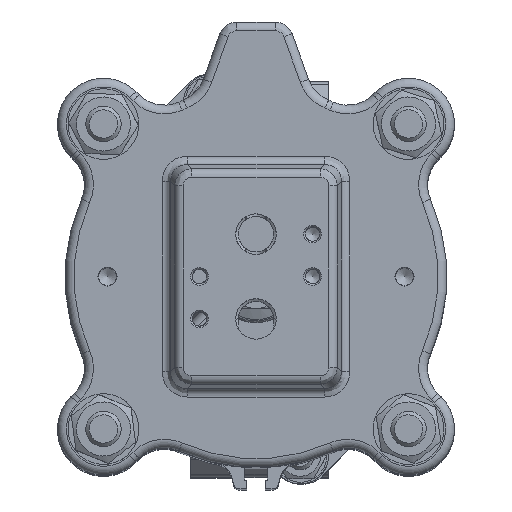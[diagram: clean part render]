
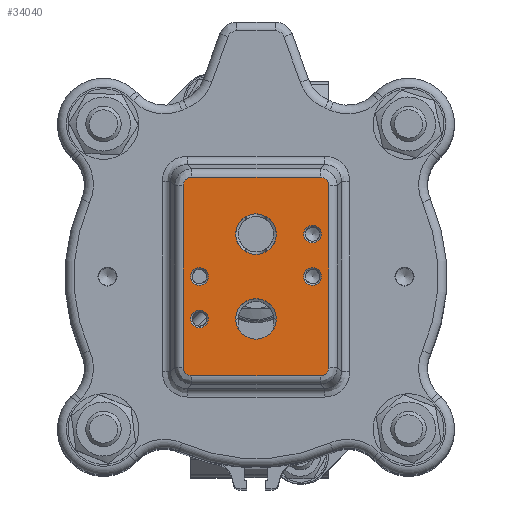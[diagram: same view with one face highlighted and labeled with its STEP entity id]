
A CAD part, top view. The second image highlights one B-rep face of the part: STEP entity #34040.
In plain terms, the highlighted planar face has unit normal (0, 0, 1).
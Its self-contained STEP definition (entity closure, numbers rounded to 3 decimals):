
#506=ELLIPSE('',#37305,2.673,2.5);
#507=ELLIPSE('',#37306,2.673,2.5);
#508=ELLIPSE('',#37307,2.673,2.5);
#509=ELLIPSE('',#37308,2.673,2.5);
#1019=FACE_BOUND('',#6562,.T.);
#1020=FACE_BOUND('',#6563,.T.);
#1021=FACE_BOUND('',#6564,.T.);
#1022=FACE_BOUND('',#6565,.T.);
#1023=FACE_BOUND('',#6566,.T.);
#1024=FACE_BOUND('',#6567,.T.);
#1802=PLANE('',#37304);
#4368=FACE_OUTER_BOUND('',#6561,.T.);
#6561=EDGE_LOOP('',(#27449,#27450,#27451,#27452,#27453,#27454,#27455,#27456));
#6562=EDGE_LOOP('',(#27457,#27458));
#6563=EDGE_LOOP('',(#27459,#27460));
#6564=EDGE_LOOP('',(#27461));
#6565=EDGE_LOOP('',(#27462));
#6566=EDGE_LOOP('',(#27463));
#6567=EDGE_LOOP('',(#27464));
#8834=CIRCLE('',#37174,5.723);
#8835=CIRCLE('',#37175,5.723);
#8837=CIRCLE('',#37178,5.723);
#8838=CIRCLE('',#37179,5.723);
#8929=CIRCLE('',#37303,2.5);
#8930=CIRCLE('',#37309,2.5);
#8931=CIRCLE('',#37310,2.5);
#8932=CIRCLE('',#37311,2.5);
#11150=LINE('',#59920,#13055);
#11151=LINE('',#59924,#13056);
#11152=LINE('',#59928,#13057);
#11153=LINE('',#59931,#13058);
#13055=VECTOR('',#44816,10.);
#13056=VECTOR('',#44819,10.);
#13057=VECTOR('',#44822,10.);
#13058=VECTOR('',#44825,10.);
#15661=VERTEX_POINT('',#59225);
#15662=VERTEX_POINT('',#59227);
#15663=VERTEX_POINT('',#59232);
#15664=VERTEX_POINT('',#59234);
#15765=VERTEX_POINT('',#59912);
#15766=VERTEX_POINT('',#59916);
#15767=VERTEX_POINT('',#59917);
#15768=VERTEX_POINT('',#59919);
#15769=VERTEX_POINT('',#59921);
#15770=VERTEX_POINT('',#59923);
#15771=VERTEX_POINT('',#59925);
#15772=VERTEX_POINT('',#59927);
#15773=VERTEX_POINT('',#59929);
#15774=VERTEX_POINT('',#59932);
#15775=VERTEX_POINT('',#59934);
#15776=VERTEX_POINT('',#59936);
#19775=EDGE_CURVE('',#15662,#15661,#8834,.T.);
#19776=EDGE_CURVE('',#15661,#15662,#8835,.T.);
#19779=EDGE_CURVE('',#15664,#15663,#8837,.T.);
#19780=EDGE_CURVE('',#15663,#15664,#8838,.T.);
#19916=EDGE_CURVE('',#15765,#15765,#8929,.T.);
#19917=EDGE_CURVE('',#15766,#15767,#506,.T.);
#19918=EDGE_CURVE('',#15768,#15766,#11150,.T.);
#19919=EDGE_CURVE('',#15769,#15768,#507,.T.);
#19920=EDGE_CURVE('',#15770,#15769,#11151,.T.);
#19921=EDGE_CURVE('',#15771,#15770,#508,.T.);
#19922=EDGE_CURVE('',#15772,#15771,#11152,.T.);
#19923=EDGE_CURVE('',#15773,#15772,#509,.T.);
#19924=EDGE_CURVE('',#15767,#15773,#11153,.T.);
#19925=EDGE_CURVE('',#15774,#15774,#8930,.T.);
#19926=EDGE_CURVE('',#15775,#15775,#8931,.T.);
#19927=EDGE_CURVE('',#15776,#15776,#8932,.T.);
#27449=ORIENTED_EDGE('',*,*,#19917,.F.);
#27450=ORIENTED_EDGE('',*,*,#19918,.F.);
#27451=ORIENTED_EDGE('',*,*,#19919,.F.);
#27452=ORIENTED_EDGE('',*,*,#19920,.F.);
#27453=ORIENTED_EDGE('',*,*,#19921,.F.);
#27454=ORIENTED_EDGE('',*,*,#19922,.F.);
#27455=ORIENTED_EDGE('',*,*,#19923,.F.);
#27456=ORIENTED_EDGE('',*,*,#19924,.F.);
#27457=ORIENTED_EDGE('',*,*,#19775,.T.);
#27458=ORIENTED_EDGE('',*,*,#19776,.T.);
#27459=ORIENTED_EDGE('',*,*,#19779,.T.);
#27460=ORIENTED_EDGE('',*,*,#19780,.T.);
#27461=ORIENTED_EDGE('',*,*,#19925,.F.);
#27462=ORIENTED_EDGE('',*,*,#19926,.F.);
#27463=ORIENTED_EDGE('',*,*,#19927,.F.);
#27464=ORIENTED_EDGE('',*,*,#19916,.F.);
#34040=ADVANCED_FACE('',(#4368,#1019,#1020,#1021,#1022,#1023,#1024),#1802,
 .F.);
#37174=AXIS2_PLACEMENT_3D('',#59228,#44524,#44525);
#37175=AXIS2_PLACEMENT_3D('',#59229,#44526,#44527);
#37178=AXIS2_PLACEMENT_3D('',#59235,#44533,#44534);
#37179=AXIS2_PLACEMENT_3D('',#59236,#44535,#44536);
#37303=AXIS2_PLACEMENT_3D('',#59914,#44810,#44811);
#37304=AXIS2_PLACEMENT_3D('',#59915,#44812,#44813);
#37305=AXIS2_PLACEMENT_3D('',#59918,#44814,#44815);
#37306=AXIS2_PLACEMENT_3D('',#59922,#44817,#44818);
#37307=AXIS2_PLACEMENT_3D('',#59926,#44820,#44821);
#37308=AXIS2_PLACEMENT_3D('',#59930,#44823,#44824);
#37309=AXIS2_PLACEMENT_3D('',#59933,#44826,#44827);
#37310=AXIS2_PLACEMENT_3D('',#59935,#44828,#44829);
#37311=AXIS2_PLACEMENT_3D('',#59937,#44830,#44831);
#44524=DIRECTION('center_axis',(0.,0.,
-1.));
#44525=DIRECTION('ref_axis',(0.,1.,0.));
#44526=DIRECTION('center_axis',(0.,0.,
-1.));
#44527=DIRECTION('ref_axis',(0.,1.,0.));
#44533=DIRECTION('center_axis',(0.,0.,
-1.));
#44534=DIRECTION('ref_axis',(0.,1.,0.));
#44535=DIRECTION('center_axis',(0.,0.,
-1.));
#44536=DIRECTION('ref_axis',(0.,1.,0.));
#44810=DIRECTION('center_axis',(0.,0.,
1.));
#44811=DIRECTION('ref_axis',(0.,-1.,0.));
#44812=DIRECTION('center_axis',(0.,0.,
-1.));
#44813=DIRECTION('ref_axis',(0.,-1.,0.));
#44814=DIRECTION('center_axis',(0.,0.,
-1.));
#44815=DIRECTION('ref_axis',(0.707,-0.707,0.));
#44816=DIRECTION('',(0.,-1.,0.));
#44817=DIRECTION('center_axis',(0.,0.,
-1.));
#44818=DIRECTION('ref_axis',(0.707,0.707,0.));
#44819=DIRECTION('',(1.,0.,0.));
#44820=DIRECTION('center_axis',(0.,0.,
-1.));
#44821=DIRECTION('ref_axis',(-0.707,0.707,0.));
#44822=DIRECTION('',(0.,1.,0.));
#44823=DIRECTION('center_axis',(0.,0.,
-1.));
#44824=DIRECTION('ref_axis',(-0.707,-0.707,0.));
#44825=DIRECTION('',(-1.,0.,0.));
#44826=DIRECTION('center_axis',(0.,0.,
1.));
#44827=DIRECTION('ref_axis',(0.,-1.,0.));
#44828=DIRECTION('center_axis',(0.,0.,
1.));
#44829=DIRECTION('ref_axis',(0.,-1.,0.));
#44830=DIRECTION('center_axis',(0.,0.,
1.));
#44831=DIRECTION('ref_axis',(0.,-1.,0.));
#59225=CARTESIAN_POINT('',(0.,-17.723,523.5));
#59227=CARTESIAN_POINT('',(0.,-6.278,523.5));
#59228=CARTESIAN_POINT('Origin',(0.,-12.,
523.5));
#59229=CARTESIAN_POINT('Origin',(0.,-12.,
523.5));
#59232=CARTESIAN_POINT('',(0.,6.277,523.5));
#59234=CARTESIAN_POINT('',(0.,17.722,523.5));
#59235=CARTESIAN_POINT('Origin',(0.,12.,
523.5));
#59236=CARTESIAN_POINT('Origin',(0.,12.,
523.5));
#59912=CARTESIAN_POINT('',(-16.,-9.5,523.5));
#59914=CARTESIAN_POINT('Origin',(-16.,-12.,523.5));
#59915=CARTESIAN_POINT('Origin',(0.,0.,
523.5));
#59916=CARTESIAN_POINT('',(20.582,-25.667,523.5));
#59917=CARTESIAN_POINT('',(18.167,-28.082,523.5));
#59918=CARTESIAN_POINT('Origin',(17.993,-25.493,523.5));
#59919=CARTESIAN_POINT('',(20.582,25.667,523.5));
#59920=CARTESIAN_POINT('',(20.582,-15.,523.5));
#59921=CARTESIAN_POINT('',(18.167,28.082,523.5));
#59922=CARTESIAN_POINT('Origin',(17.993,25.493,523.5));
#59923=CARTESIAN_POINT('',(-18.167,28.082,523.5));
#59924=CARTESIAN_POINT('',(11.25,28.082,523.5));
#59925=CARTESIAN_POINT('',(-20.582,25.667,523.5));
#59926=CARTESIAN_POINT('Origin',(-17.993,25.493,523.5));
#59927=CARTESIAN_POINT('',(-20.582,-25.667,523.5));
#59928=CARTESIAN_POINT('',(-20.582,15.,523.5));
#59929=CARTESIAN_POINT('',(-18.167,-28.082,523.5));
#59930=CARTESIAN_POINT('Origin',(-17.993,-25.493,523.5));
#59931=CARTESIAN_POINT('',(-11.25,-28.082,523.5));
#59932=CARTESIAN_POINT('',(-16.,2.5,523.5));
#59933=CARTESIAN_POINT('Origin',(-16.,0.,
523.5));
#59934=CARTESIAN_POINT('',(16.,14.5,523.5));
#59935=CARTESIAN_POINT('Origin',(16.,12.,523.5));
#59936=CARTESIAN_POINT('',(16.,2.5,523.5));
#59937=CARTESIAN_POINT('Origin',(16.,0.,
523.5));
